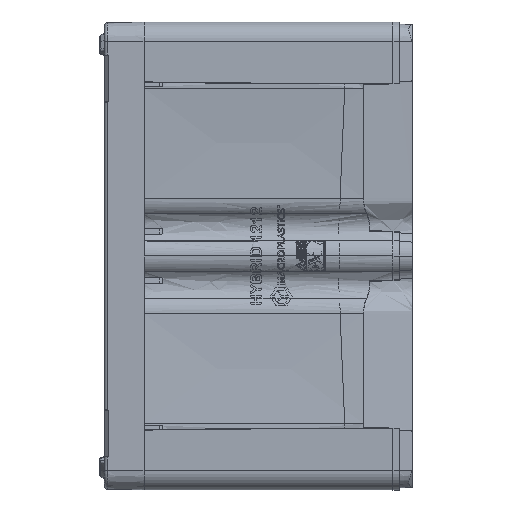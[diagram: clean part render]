
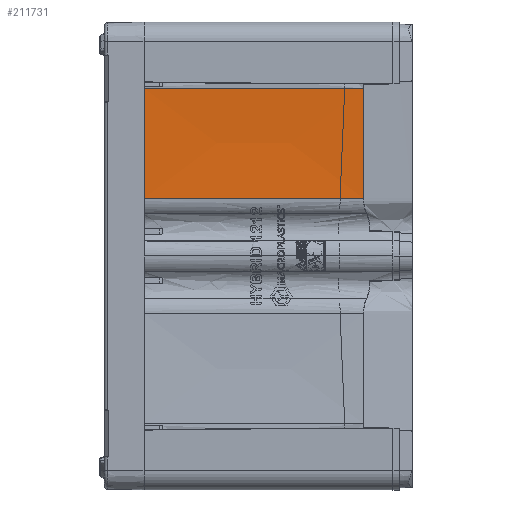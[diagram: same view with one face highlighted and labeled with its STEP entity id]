
A CAD part, left-side view. The second image highlights one B-rep face of the part: STEP entity #211731.
In plain terms, the highlighted free-form (B-spline) face has degree [3, 3] with [7, 4] control points.
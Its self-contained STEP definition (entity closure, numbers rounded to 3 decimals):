
#21651 = CARTESIAN_POINT ( 'NONE',  ( -540.497, 122.332, 195.068 ) ) ;
#22741 = CARTESIAN_POINT ( 'NONE',  ( -548.394, 312.147, 242.139 ) ) ;
#23838 = CARTESIAN_POINT ( 'NONE',  ( -568.967, 501.962, 429.838 ) ) ;
#28077 = CARTESIAN_POINT ( 'NONE',  ( -560.264, 688.4, 195.098 ) ) ;
#37199 = VERTEX_POINT ( 'NONE', #163964 ) ;
#42482 = CARTESIAN_POINT ( 'NONE',  ( -545.692, 125.788, 312.635 ) ) ;
#45343 = CARTESIAN_POINT ( 'NONE',  ( -561.651, 691.776, 242.139 ) ) ;
#47558 = CARTESIAN_POINT ( 'NONE',  ( -544.303, 122.332, 289.141 ) ) ;
#53549 = B_SPLINE_CURVE_WITH_KNOTS ( 'NONE', 3,
 ( #66052, #275211, #70515, #146388 ),
 .UNSPECIFIED., .F., .F.,
 ( 4, 4 ),
 ( 0.147, 0.963 ),
 .UNSPECIFIED. ) ;
#56897 = VERTEX_POINT ( 'NONE', #283901 ) ;
#57760 = EDGE_CURVE ( 'NONE', #37199, #219043, #139745, .T. ) ;
#66052 = CARTESIAN_POINT ( 'NONE',  ( -575.478, 688.4, 429.838 ) ) ;
#70515 = CARTESIAN_POINT ( 'NONE',  ( -562.383, 313.428, 429.838 ) ) ;
#71313 = CARTESIAN_POINT ( 'NONE',  ( -555.71, 122.333, 429.838 ) ) ;
#73523 = CARTESIAN_POINT ( 'NONE',  ( -566.726, 691.776, 336.142 ) ) ;
#75332 = CARTESIAN_POINT ( 'NONE',  ( -540.615, 125.712, 148.032 ) ) ;
#76439 = CARTESIAN_POINT ( 'NONE',  ( -560.264, 688.4, 148.032 ) ) ;
#81114 = CARTESIAN_POINT ( 'NONE',  ( -570.411, 688.4, 383.046 ) ) ;
#99558 = CARTESIAN_POINT ( 'NONE',  ( -562.338, 312.148, 429.838 ) ) ;
#100656 = CARTESIAN_POINT ( 'NONE',  ( -550.931, 312.147, 289.141 ) ) ;
#101754 = CARTESIAN_POINT ( 'NONE',  ( -563.903, 501.962, 383.076 ) ) ;
#105890 = EDGE_LOOP ( 'NONE', ( #258684, #325646, #213538, #109039 ) ) ;
#109039 = ORIENTED_EDGE ( 'NONE', *, *, #135295, .F. ) ;
#123389 = CARTESIAN_POINT ( 'NONE',  ( -555.022, 501.962, 242.139 ) ) ;
#126749 = CARTESIAN_POINT ( 'NONE',  ( -547.125, 312.147, 148.032 ) ) ;
#127485 = EDGE_CURVE ( 'NONE', #299464, #37199, #210071, .T. ) ;
#132103 = CARTESIAN_POINT ( 'NONE',  ( -575.478, 688.4, 429.838 ) ) ;
#133206 = CARTESIAN_POINT ( 'NONE',  ( -566.608, 688.4, 336.151 ) ) ;
#135295 = EDGE_CURVE ( 'NONE', #299464, #56897, #286642, .T. ) ;
#139745 = B_SPLINE_CURVE_WITH_KNOTS ( 'NONE', 3,
 ( #225585, #226675, #247109, #249336, #299216, #42482, #148731, #224461, #329677, #326353 ),
 .UNSPECIFIED., .F., .F.,
 ( 4, 2, 2, 2, 4 ),
 ( 0., 0.071, 0.141, 0.212, 0.282 ),
 .UNSPECIFIED. ) ;
#146388 = CARTESIAN_POINT ( 'NONE',  ( -555.836, 125.942, 429.838 ) ) ;
#148297 = CARTESIAN_POINT ( 'NONE',  ( -560.382, 691.776, 148.032 ) ) ;
#148731 = CARTESIAN_POINT ( 'NONE',  ( -547.278, 125.812, 336.115 ) ) ;
#149367 = CARTESIAN_POINT ( 'NONE',  ( -547.125, 312.147, 195.068 ) ) ;
#152253 = CARTESIAN_POINT ( 'NONE',  ( -553.715, 500.837, 148.032 ) ) ;
#152704 = CARTESIAN_POINT ( 'NONE',  ( -570.532, 691.777, 383.076 ) ) ;
#158876 = FACE_OUTER_BOUND ( 'NONE', #105890, .T. ) ;
#163964 = CARTESIAN_POINT ( 'NONE',  ( -540.615, 125.712, 148.032 ) ) ;
#174165 = CARTESIAN_POINT ( 'NONE',  ( -560.382, 691.776, 195.068 ) ) ;
#177499 = CARTESIAN_POINT ( 'NONE',  ( -553.469, 312.147, 336.142 ) ) ;
#178082 = CARTESIAN_POINT ( 'NONE',  ( -555.836, 125.942, 429.838 ) ) ;
#178632 = CARTESIAN_POINT ( 'NONE',  ( -546.84, 122.333, 336.142 ) ) ;
#185715 = EDGE_CURVE ( 'NONE', #56897, #219043, #53549, .T. ) ;
#202382 = CARTESIAN_POINT ( 'NONE',  ( -540.497, 122.332, 148.032 ) ) ;
#210071 = B_SPLINE_CURVE_WITH_KNOTS ( 'NONE', 3,
 ( #76439, #152253, #309435, #75332 ),
 .UNSPECIFIED., .F., .F.,
 ( 4, 4 ),
 ( 0.147, 0.963 ),
 .UNSPECIFIED. ) ;
#211731 = ADVANCED_FACE ( 'NONE', ( #158876 ), #262285, .F. ) ;
#213538 = ORIENTED_EDGE ( 'NONE', *, *, #185715, .F. ) ;
#219043 = VERTEX_POINT ( 'NONE', #178082 ) ;
#224461 = CARTESIAN_POINT ( 'NONE',  ( -551.083, 125.869, 383.02 ) ) ;
#225585 = CARTESIAN_POINT ( 'NONE',  ( -540.615, 125.712, 148.032 ) ) ;
#226218 = CARTESIAN_POINT ( 'NONE',  ( -557.56, 501.962, 289.141 ) ) ;
#226675 = CARTESIAN_POINT ( 'NONE',  ( -540.615, 125.709, 171.564 ) ) ;
#228456 = CARTESIAN_POINT ( 'NONE',  ( -560.097, 501.962, 336.142 ) ) ;
#236032 = CARTESIAN_POINT ( 'NONE',  ( -560.264, 688.4, 148.032 ) ) ;
#247109 = CARTESIAN_POINT ( 'NONE',  ( -540.932, 125.716, 195.091 ) ) ;
#249336 = CARTESIAN_POINT ( 'NONE',  ( -542.202, 125.735, 242.131 ) ) ;
#254444 = CARTESIAN_POINT ( 'NONE',  ( -550.646, 122.333, 383.076 ) ) ;
#255028 = CARTESIAN_POINT ( 'NONE',  ( -560.264, 688.4, 148.032 ) ) ;
#256685 = CARTESIAN_POINT ( 'NONE',  ( -553.754, 501.962, 195.068 ) ) ;
#258684 = ORIENTED_EDGE ( 'NONE', *, *, #127485, .T. ) ;
#258706 = CARTESIAN_POINT ( 'NONE',  ( -561.534, 688.4, 242.156 ) ) ;
#262285 = B_SPLINE_SURFACE_WITH_KNOTS ( 'NONE', 3, 3, ( 
 ( #202382, #126749, #303188, #148297 ),
 ( #21651, #149367, #256685, #174165 ),
 ( #278264, #22741, #123389, #45343 ),
 ( #47558, #100656, #226218, #307639 ),
 ( #178632, #177499, #228456, #73523 ),
 ( #254444, #305397, #101754, #152704 ),
 ( #71313, #99558, #23838, #280497 ) ),
 .UNSPECIFIED., .F., .F., .F.,
 ( 4, 3, 4 ),
 ( 4, 4 ),
 ( 0., 0.5, 1. ),
 ( 0.033, 0.858 ),
 .UNSPECIFIED. ) ;
#275211 = CARTESIAN_POINT ( 'NONE',  ( -568.93, 500.914, 429.838 ) ) ;
#278264 = CARTESIAN_POINT ( 'NONE',  ( -541.766, 122.332, 242.139 ) ) ;
#280497 = CARTESIAN_POINT ( 'NONE',  ( -575.595, 691.777, 429.838 ) ) ;
#283901 = CARTESIAN_POINT ( 'NONE',  ( -575.478, 688.4, 429.838 ) ) ;
#286642 = B_SPLINE_CURVE_WITH_KNOTS ( 'NONE', 3,
 ( #236032, #28077, #258706, #133206, #81114, #132103 ),
 .UNSPECIFIED., .F., .F.,
 ( 4, 2, 4 ),
 ( 0., 0.141, 0.282 ),
 .UNSPECIFIED. ) ;
#299216 = CARTESIAN_POINT ( 'NONE',  ( -543.154, 125.75, 265.647 ) ) ;
#299464 = VERTEX_POINT ( 'NONE', #255028 ) ;
#303188 = CARTESIAN_POINT ( 'NONE',  ( -553.754, 501.962, 148.032 ) ) ;
#305397 = CARTESIAN_POINT ( 'NONE',  ( -557.275, 312.147, 383.076 ) ) ;
#307639 = CARTESIAN_POINT ( 'NONE',  ( -564.188, 691.776, 289.141 ) ) ;
#309435 = CARTESIAN_POINT ( 'NONE',  ( -547.165, 313.275, 148.032 ) ) ;
#325646 = ORIENTED_EDGE ( 'NONE', *, *, #57760, .T. ) ;
#326353 = CARTESIAN_POINT ( 'NONE',  ( -555.836, 125.942, 429.838 ) ) ;
#329677 = CARTESIAN_POINT ( 'NONE',  ( -553.301, 125.903, 406.443 ) ) ;
